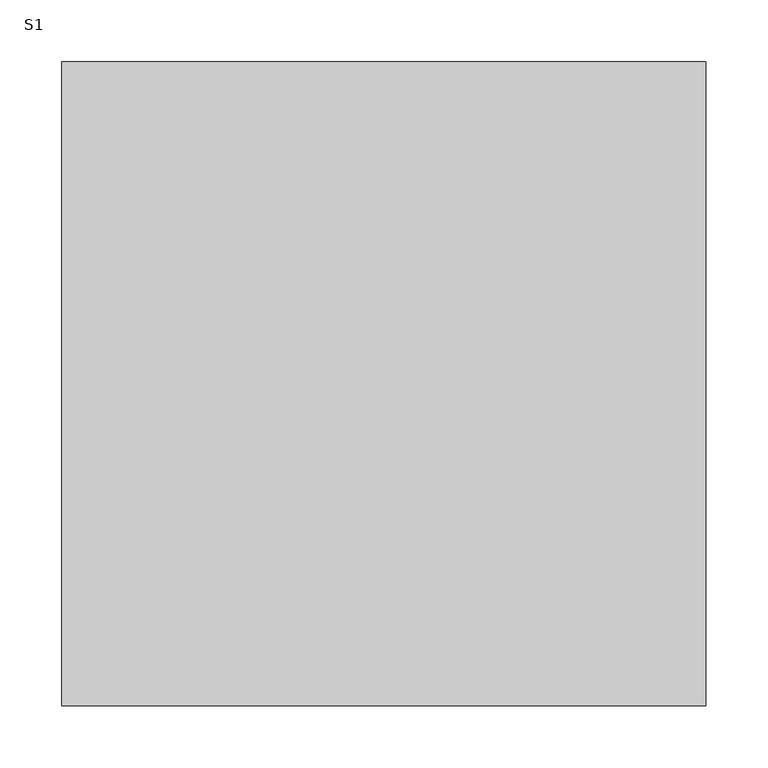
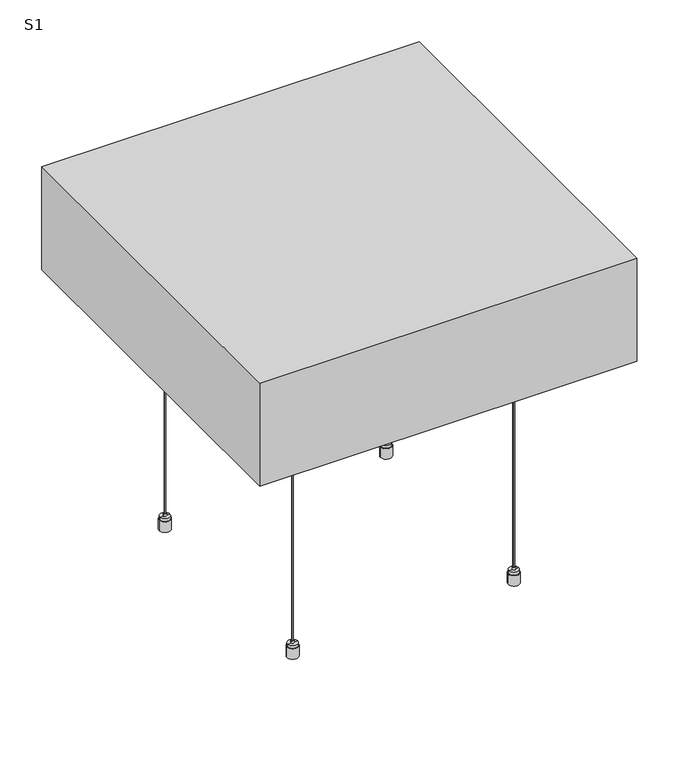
"""IFC4 building model written with IfcOpenShell, lengths in millimetres: proxy geometry, OWA Corpus : S1."""

from ifc_helpers import new_model, si_unit, point, frame, frame_2d, origin, place, context, project, spatial, polyline, circle_curve, trimmed, segment, composite_curve, outline, extrude, faceted_brep, source, transform, mapped, element, save
from ifc_brep_helpers import plane_surface, cylinder_surface, revolved_surface, advanced_brep


def s1_047c2050(model_context):
    return source(origin(), model_context, "Body", "SolidModel", [
        advanced_brep(
        [(-281.0, -152.5, 0.0), (-273.2593825, -152.5, 0.0), (-288.7406175, -152.5, 0.0), (-273.2593825, -152.5, 15.0), (-288.7406175, -152.5, 15.0), (-274.1843825, -152.5, 15.0), (-287.8156175, -152.5, 15.0), (-274.1843825, -152.5, 19.0), (-287.8156175, -152.5, 19.0), (-278.9343825, -152.5, 19.0), (-283.0656175, -152.5, 19.0), (-278.9343825, -152.5, 22.546183), (-283.0656175, -152.5, 22.546183), (-281.0, -152.5, 22.546183)],
        [
            (0, 1),
            (1, 2, circle_curve(frame((-281.0, -152.5, 0.0), z_axis=(0.0, 0.0, -1.0), x_axis=(-1.0, 0.0, 0.0)), 7.7406175)),
            (2, 0),
            (2, 1, circle_curve(frame((-281.0, -152.5, 0.0), z_axis=(0.0, 0.0, -1.0), x_axis=(-1.0, 0.0, 0.0)), 7.7406175)),
            (1, 3),
            (3, 4, circle_curve(frame((-281.0, -152.5, 15.0), z_axis=(0.0, 0.0, -1.0), x_axis=(-1.0, 0.0, 0.0)), 7.7406175)),
            (4, 2),
            (4, 3, circle_curve(frame((-281.0, -152.5, 15.0), z_axis=(0.0, 0.0, -1.0), x_axis=(-1.0, 0.0, 0.0)), 7.7406175)),
            (3, 5),
            (5, 6, circle_curve(frame((-281.0, -152.5, 15.0), z_axis=(0.0, 0.0, -1.0), x_axis=(-1.0, 0.0, 0.0)), 6.8156175)),
            (6, 4),
            (6, 5, circle_curve(frame((-281.0, -152.5, 15.0), z_axis=(0.0, 0.0, -1.0), x_axis=(-1.0, 0.0, 0.0)), 6.8156175)),
            (5, 7),
            (7, 8, circle_curve(frame((-281.0, -152.5, 19.0), z_axis=(0.0, 0.0, -1.0), x_axis=(-1.0, 0.0, 0.0)), 6.8156175)),
            (8, 6),
            (8, 7, circle_curve(frame((-281.0, -152.5, 19.0), z_axis=(0.0, 0.0, -1.0), x_axis=(-1.0, 0.0, 0.0)), 6.8156175)),
            (7, 9),
            (9, 10, circle_curve(frame((-281.0, -152.5, 19.0), z_axis=(0.0, 0.0, -1.0), x_axis=(-1.0, 0.0, 0.0)), 2.0656175)),
            (10, 8),
            (10, 9, circle_curve(frame((-281.0, -152.5, 19.0), z_axis=(0.0, 0.0, -1.0), x_axis=(-1.0, 0.0, 0.0)), 2.0656175)),
            (9, 11),
            (11, 12, circle_curve(frame((-281.0, -152.5, 22.546183), z_axis=(0.0, 0.0, -1.0), x_axis=(-1.0, 0.0, 0.0)), 2.0656175)),
            (12, 10),
            (12, 11, circle_curve(frame((-281.0, -152.5, 22.546183), z_axis=(0.0, 0.0, -1.0), x_axis=(-1.0, 0.0, 0.0)), 2.0656175)),
            (11, 13),
            (13, 12),
        ],
        [
            plane_surface(frame((-281.0, -152.5, 0.0), z_axis=(0.0, 0.0, -1.0), x_axis=(-1.0, 0.0, 0.0))),
            cylinder_surface(frame((-281.0, -152.5, -10.0), z_axis=(0.0, 0.0, -1.0), x_axis=(-1.0, 0.0, 0.0)), 7.7406175),
            plane_surface(frame((-281.0, -152.5, 15.0), z_axis=(0.0, 0.0, 1.0), x_axis=(-1.0, 0.0, 0.0))),
            cylinder_surface(frame((-281.0, -152.5, -10.0), z_axis=(0.0, 0.0, -1.0), x_axis=(-1.0, 0.0, 0.0)), 6.8156175),
            plane_surface(frame((-281.0, -152.5, 19.0), z_axis=(0.0, 0.0, 1.0), x_axis=(-1.0, 0.0, 0.0))),
            cylinder_surface(frame((-281.0, -152.5, -10.0), z_axis=(0.0, 0.0, -1.0), x_axis=(-1.0, 0.0, 0.0)), 2.0656175),
            plane_surface(frame((-281.0, -152.5, 22.546183), z_axis=(0.0, 0.0, 1.0), x_axis=(-1.0, 0.0, 0.0))),
        ],
        [
            (0, [[1, 2, 3]]),
            (0, [[-3, 4, -1]]),
            (1, [[5, 6, 7, -2]]),
            (1, [[-7, 8, -5, -4]]),
            (2, [[9, 10, 11, -6]]),
            (2, [[-11, 12, -9, -8]]),
            (3, [[13, 14, 15, -10]]),
            (3, [[-15, 16, -13, -12]]),
            (4, [[17, 18, 19, -14]]),
            (4, [[-19, 20, -17, -16]]),
            (5, [[21, 22, 23, -18]]),
            (5, [[-23, 24, -21, -20]]),
            (6, [[25, 26, -22]]),
            (6, [[-26, -25, -24]]),
        ],
    ),
        advanced_brep(
        [(-278.7615389, -152.5, 428.8211737), (-278.6339453, -152.5, 432.8711737), (-283.3660547, -152.5, 432.8711737), (-283.2384611, -152.5, 428.8211737), (-276.1339453, -152.5, 432.8711737), (-285.8660547, -152.5, 432.8711737), (-276.1339453, -152.5, 458.1211737), (-285.8660547, -152.5, 458.1211737), (-265.1339453, -152.5, 458.1211737), (-296.8660547, -152.5, 458.1211737), (-265.1339453, -152.5, 460.0), (-296.8660547, -152.5, 460.0), (-281.0, -152.5, 460.0), (-281.0, -152.5, 428.8211737)],
        [
            (0, 1),
            (1, 2, circle_curve(frame((-281.0, -152.5, 432.8711737), z_axis=(0.0, 0.0, -1.0), x_axis=(-1.0, 0.0, 0.0)), 2.3660547)),
            (2, 3),
            (3, 0, circle_curve(frame((-281.0, -152.5, 428.8211737), z_axis=(0.0, 0.0, 1.0), x_axis=(-1.0, 0.0, 0.0)), 2.2384611)),
            (2, 1, circle_curve(frame((-281.0, -152.5, 432.8711737), z_axis=(0.0, 0.0, -1.0), x_axis=(-1.0, 0.0, 0.0)), 2.3660547)),
            (0, 3, circle_curve(frame((-281.0, -152.5, 428.8211737), z_axis=(0.0, 0.0, 1.0), x_axis=(-1.0, 0.0, 0.0)), 2.2384611)),
            (1, 4),
            (4, 5, circle_curve(frame((-281.0, -152.5, 432.8711737), z_axis=(0.0, 0.0, -1.0), x_axis=(-1.0, 0.0, 0.0)), 4.8660547)),
            (5, 2),
            (5, 4, circle_curve(frame((-281.0, -152.5, 432.8711737), z_axis=(0.0, 0.0, -1.0), x_axis=(-1.0, 0.0, 0.0)), 4.8660547)),
            (4, 6),
            (6, 7, circle_curve(frame((-281.0, -152.5, 458.1211737), z_axis=(0.0, 0.0, -1.0), x_axis=(-1.0, 0.0, 0.0)), 4.8660547)),
            (7, 5),
            (7, 6, circle_curve(frame((-281.0, -152.5, 458.1211737), z_axis=(0.0, 0.0, -1.0), x_axis=(-1.0, 0.0, 0.0)), 4.8660547)),
            (6, 8),
            (8, 9, circle_curve(frame((-281.0, -152.5, 458.1211737), z_axis=(0.0, 0.0, -1.0), x_axis=(-1.0, 0.0, 0.0)), 15.8660547)),
            (9, 7),
            (9, 8, circle_curve(frame((-281.0, -152.5, 458.1211737), z_axis=(0.0, 0.0, -1.0), x_axis=(-1.0, 0.0, 0.0)), 15.8660547)),
            (8, 10),
            (10, 11, circle_curve(frame((-281.0, -152.5, 460.0), z_axis=(0.0, 0.0, -1.0), x_axis=(-1.0, 0.0, 0.0)), 15.8660547)),
            (11, 9),
            (11, 10, circle_curve(frame((-281.0, -152.5, 460.0), z_axis=(0.0, 0.0, -1.0), x_axis=(-1.0, 0.0, 0.0)), 15.8660547)),
            (10, 12),
            (12, 11),
            (13, 0),
            (3, 13),
        ],
        [
            revolved_surface(polyline([(-283.3660547, -152.5, 432.8711737), (-283.2384611, -152.5, 428.8211737)]), (-281.0, -152.5, 461.8401096), (0.0, 0.0, -1.0)),
            plane_surface(frame((-281.0, -152.5, 432.8711737), z_axis=(0.0, 0.0, -1.0), x_axis=(-1.0, 0.0, 0.0))),
            cylinder_surface(frame((-281.0, -152.5, 461.8401096), z_axis=(0.0, 0.0, -1.0), x_axis=(-1.0, 0.0, 0.0)), 4.8660547),
            plane_surface(frame((-281.0, -152.5, 458.1211737), z_axis=(0.0, 0.0, -1.0), x_axis=(-1.0, 0.0, 0.0))),
            cylinder_surface(frame((-281.0, -152.5, 461.8401096), z_axis=(0.0, 0.0, -1.0), x_axis=(-1.0, 0.0, 0.0)), 15.8660547),
            plane_surface(frame((-281.0, -152.5, 460.0), z_axis=(0.0, 0.0, 1.0), x_axis=(-1.0, 0.0, 0.0))),
            plane_surface(frame((-281.0, -152.5, 428.8211737), z_axis=(0.0, 0.0, -1.0), x_axis=(-1.0, 0.0, 0.0))),
        ],
        [
            (0, [[1, 2, 3, 4]]),
            (0, [[-3, 5, -1, 6]]),
            (1, [[7, 8, 9, -2]]),
            (1, [[-9, 10, -7, -5]]),
            (2, [[11, 12, 13, -8]]),
            (2, [[-13, 14, -11, -10]]),
            (3, [[15, 16, 17, -12]]),
            (3, [[-17, 18, -15, -14]]),
            (4, [[19, 20, 21, -16]]),
            (4, [[-21, 22, -19, -18]]),
            (5, [[23, 24, -20]]),
            (5, [[-24, -23, -22]]),
            (6, [[25, -4, 26]]),
            (6, [[-26, -6, -25]]),
        ],
    ),
        extrude(outline(composite_curve([segment(trimmed(circle_curve(frame_2d((-281.0, -152.5)), 1.0), [point((-282.0, -152.5))], [point((-280.0, -152.5))], False, "CARTESIAN"), True, "CONTINUOUS"), segment(trimmed(circle_curve(frame_2d((-281.0, -152.5)), 1.0), [point((-280.0, -152.5))], [point((-282.0, -152.5))], False, "CARTESIAN"), True, "CONTINUOUS")], self_intersect=False)), frame((0.0, 0.0, 22.546183), z_axis=(0.0, 0.0, 1.0), x_axis=(1.0, 0.0, 0.0)), (0.0, 0.0, 1.0), 406.2749908),
        advanced_brep(
        [(-281.0, 152.5, 0.0), (-288.7406175, 152.5, 0.0), (-273.2593825, 152.5, 0.0), (-288.7406175, 152.5, 15.0), (-273.2593825, 152.5, 15.0), (-287.8156175, 152.5, 15.0), (-274.1843825, 152.5, 15.0), (-287.8156175, 152.5, 19.0), (-274.1843825, 152.5, 19.0), (-283.0656175, 152.5, 19.0), (-278.9343825, 152.5, 19.0), (-283.0656175, 152.5, 22.546183), (-278.9343825, 152.5, 22.546183), (-281.0, 152.5, 22.546183)],
        [
            (0, 1),
            (1, 2, circle_curve(frame((-281.0, 152.5, 0.0), z_axis=(0.0, 0.0, -1.0), x_axis=(-1.0, 0.0, 0.0)), 7.7406175)),
            (2, 0),
            (2, 1, circle_curve(frame((-281.0, 152.5, 0.0), z_axis=(0.0, 0.0, -1.0), x_axis=(-1.0, 0.0, 0.0)), 7.7406175)),
            (1, 3),
            (3, 4, circle_curve(frame((-281.0, 152.5, 15.0), z_axis=(0.0, 0.0, -1.0), x_axis=(-1.0, 0.0, 0.0)), 7.7406175)),
            (4, 2),
            (4, 3, circle_curve(frame((-281.0, 152.5, 15.0), z_axis=(0.0, 0.0, -1.0), x_axis=(-1.0, 0.0, 0.0)), 7.7406175)),
            (3, 5),
            (5, 6, circle_curve(frame((-281.0, 152.5, 15.0), z_axis=(0.0, 0.0, -1.0), x_axis=(-1.0, 0.0, 0.0)), 6.8156175)),
            (6, 4),
            (6, 5, circle_curve(frame((-281.0, 152.5, 15.0), z_axis=(0.0, 0.0, -1.0), x_axis=(-1.0, 0.0, 0.0)), 6.8156175)),
            (5, 7),
            (7, 8, circle_curve(frame((-281.0, 152.5, 19.0), z_axis=(0.0, 0.0, -1.0), x_axis=(-1.0, 0.0, 0.0)), 6.8156175)),
            (8, 6),
            (8, 7, circle_curve(frame((-281.0, 152.5, 19.0), z_axis=(0.0, 0.0, -1.0), x_axis=(-1.0, 0.0, 0.0)), 6.8156175)),
            (7, 9),
            (9, 10, circle_curve(frame((-281.0, 152.5, 19.0), z_axis=(0.0, 0.0, -1.0), x_axis=(-1.0, 0.0, 0.0)), 2.0656175)),
            (10, 8),
            (10, 9, circle_curve(frame((-281.0, 152.5, 19.0), z_axis=(0.0, 0.0, -1.0), x_axis=(-1.0, 0.0, 0.0)), 2.0656175)),
            (9, 11),
            (11, 12, circle_curve(frame((-281.0, 152.5, 22.546183), z_axis=(0.0, 0.0, -1.0), x_axis=(-1.0, 0.0, 0.0)), 2.0656175)),
            (12, 10),
            (12, 11, circle_curve(frame((-281.0, 152.5, 22.546183), z_axis=(0.0, 0.0, -1.0), x_axis=(-1.0, 0.0, 0.0)), 2.0656175)),
            (11, 13),
            (13, 12),
        ],
        [
            plane_surface(frame((-281.0, 152.5, 0.0), z_axis=(0.0, 0.0, -1.0), x_axis=(-1.0, 0.0, 0.0))),
            cylinder_surface(frame((-281.0, 152.5, -10.0), z_axis=(0.0, 0.0, -1.0), x_axis=(-1.0, 0.0, 0.0)), 7.7406175),
            plane_surface(frame((-281.0, 152.5, 15.0), z_axis=(0.0, 0.0, 1.0), x_axis=(-1.0, 0.0, 0.0))),
            cylinder_surface(frame((-281.0, 152.5, -10.0), z_axis=(0.0, 0.0, -1.0), x_axis=(-1.0, 0.0, 0.0)), 6.8156175),
            plane_surface(frame((-281.0, 152.5, 19.0), z_axis=(0.0, 0.0, 1.0), x_axis=(-1.0, 0.0, 0.0))),
            cylinder_surface(frame((-281.0, 152.5, -10.0), z_axis=(0.0, 0.0, -1.0), x_axis=(-1.0, 0.0, 0.0)), 2.0656175),
            plane_surface(frame((-281.0, 152.5, 22.546183), z_axis=(0.0, 0.0, 1.0), x_axis=(-1.0, 0.0, 0.0))),
        ],
        [
            (0, [[1, 2, 3]]),
            (0, [[-3, 4, -1]]),
            (1, [[-2, 5, 6, 7]]),
            (1, [[-4, -7, 8, -5]]),
            (2, [[-6, 9, 10, 11]]),
            (2, [[-8, -11, 12, -9]]),
            (3, [[-10, 13, 14, 15]]),
            (3, [[-12, -15, 16, -13]]),
            (4, [[-14, 17, 18, 19]]),
            (4, [[-16, -19, 20, -17]]),
            (5, [[-18, 21, 22, 23]]),
            (5, [[-20, -23, 24, -21]]),
            (6, [[-22, 25, 26]]),
            (6, [[-24, -26, -25]]),
        ],
    ),
        advanced_brep(
        [(-278.7615389, 152.5, 428.8211737), (-283.2384611, 152.5, 428.8211737), (-283.3660547, 152.5, 432.8711737), (-278.6339453, 152.5, 432.8711737), (-285.8660547, 152.5, 432.8711737), (-276.1339453, 152.5, 432.8711737), (-285.8660547, 152.5, 458.1211737), (-276.1339453, 152.5, 458.1211737), (-296.8660547, 152.5, 458.1211737), (-265.1339453, 152.5, 458.1211737), (-296.8660547, 152.5, 460.0), (-265.1339453, 152.5, 460.0), (-281.0, 152.5, 460.0), (-281.0, 152.5, 428.8211737)],
        [
            (0, 1, circle_curve(frame((-281.0, 152.5, 428.8211737), z_axis=(0.0, 0.0, 1.0), x_axis=(-1.0, 0.0, 0.0)), 2.2384611)),
            (1, 2),
            (2, 3, circle_curve(frame((-281.0, 152.5, 432.8711737), z_axis=(0.0, 0.0, -1.0), x_axis=(-1.0, 0.0, 0.0)), 2.3660547)),
            (3, 0),
            (1, 0, circle_curve(frame((-281.0, 152.5, 428.8211737), z_axis=(0.0, 0.0, 1.0), x_axis=(-1.0, 0.0, 0.0)), 2.2384611)),
            (3, 2, circle_curve(frame((-281.0, 152.5, 432.8711737), z_axis=(0.0, 0.0, -1.0), x_axis=(-1.0, 0.0, 0.0)), 2.3660547)),
            (2, 4),
            (4, 5, circle_curve(frame((-281.0, 152.5, 432.8711737), z_axis=(0.0, 0.0, -1.0), x_axis=(-1.0, 0.0, 0.0)), 4.8660547)),
            (5, 3),
            (5, 4, circle_curve(frame((-281.0, 152.5, 432.8711737), z_axis=(0.0, 0.0, -1.0), x_axis=(-1.0, 0.0, 0.0)), 4.8660547)),
            (4, 6),
            (6, 7, circle_curve(frame((-281.0, 152.5, 458.1211737), z_axis=(0.0, 0.0, -1.0), x_axis=(-1.0, 0.0, 0.0)), 4.8660547)),
            (7, 5),
            (7, 6, circle_curve(frame((-281.0, 152.5, 458.1211737), z_axis=(0.0, 0.0, -1.0), x_axis=(-1.0, 0.0, 0.0)), 4.8660547)),
            (6, 8),
            (8, 9, circle_curve(frame((-281.0, 152.5, 458.1211737), z_axis=(0.0, 0.0, -1.0), x_axis=(-1.0, 0.0, 0.0)), 15.8660547)),
            (9, 7),
            (9, 8, circle_curve(frame((-281.0, 152.5, 458.1211737), z_axis=(0.0, 0.0, -1.0), x_axis=(-1.0, 0.0, 0.0)), 15.8660547)),
            (8, 10),
            (10, 11, circle_curve(frame((-281.0, 152.5, 460.0), z_axis=(0.0, 0.0, -1.0), x_axis=(-1.0, 0.0, 0.0)), 15.8660547)),
            (11, 9),
            (11, 10, circle_curve(frame((-281.0, 152.5, 460.0), z_axis=(0.0, 0.0, -1.0), x_axis=(-1.0, 0.0, 0.0)), 15.8660547)),
            (10, 12),
            (12, 11),
            (13, 1),
            (0, 13),
        ],
        [
            revolved_surface(polyline([(-283.3660547, 152.5, 432.8711737), (-283.2384611, 152.5, 428.8211737)]), (-281.0, 152.5, 461.8401096), (0.0, 0.0, -1.0)),
            plane_surface(frame((-281.0, 152.5, 432.8711737), z_axis=(0.0, 0.0, -1.0), x_axis=(-1.0, 0.0, 0.0))),
            cylinder_surface(frame((-281.0, 152.5, 461.8401096), z_axis=(0.0, 0.0, -1.0), x_axis=(-1.0, 0.0, 0.0)), 4.8660547),
            plane_surface(frame((-281.0, 152.5, 458.1211737), z_axis=(0.0, 0.0, -1.0), x_axis=(-1.0, 0.0, 0.0))),
            cylinder_surface(frame((-281.0, 152.5, 461.8401096), z_axis=(0.0, 0.0, -1.0), x_axis=(-1.0, 0.0, 0.0)), 15.8660547),
            plane_surface(frame((-281.0, 152.5, 460.0), z_axis=(0.0, 0.0, 1.0), x_axis=(-1.0, 0.0, 0.0))),
            plane_surface(frame((-281.0, 152.5, 428.8211737), z_axis=(0.0, 0.0, -1.0), x_axis=(-1.0, 0.0, 0.0))),
        ],
        [
            (0, [[1, 2, 3, 4]]),
            (0, [[5, -4, 6, -2]]),
            (1, [[-3, 7, 8, 9]]),
            (1, [[-6, -9, 10, -7]]),
            (2, [[-8, 11, 12, 13]]),
            (2, [[-10, -13, 14, -11]]),
            (3, [[-12, 15, 16, 17]]),
            (3, [[-14, -17, 18, -15]]),
            (4, [[-16, 19, 20, 21]]),
            (4, [[-18, -21, 22, -19]]),
            (5, [[-20, 23, 24]]),
            (5, [[-22, -24, -23]]),
            (6, [[25, -1, 26]]),
            (6, [[-26, -5, -25]]),
        ],
    ),
        extrude(outline(composite_curve([segment(trimmed(circle_curve(frame_2d((-281.0, 152.5)), 1.0), [point((-282.0, 152.5))], [point((-280.0, 152.5))], False, "CARTESIAN"), True, "CONTINUOUS"), segment(trimmed(circle_curve(frame_2d((-281.0, 152.5)), 1.0), [point((-280.0, 152.5))], [point((-282.0, 152.5))], False, "CARTESIAN"), True, "CONTINUOUS")], self_intersect=False)), frame((0.0, 0.0, 22.546183), z_axis=(0.0, 0.0, 1.0), x_axis=(1.0, 0.0, 0.0)), (0.0, 0.0, 1.0), 406.2749908),
        advanced_brep(
        [(-586.0, -152.5, 0.0), (-578.2593825, -152.5, 0.0), (-593.7406175, -152.5, 0.0), (-578.2593825, -152.5, 15.0), (-593.7406175, -152.5, 15.0), (-579.1843825, -152.5, 15.0), (-592.8156175, -152.5, 15.0), (-579.1843825, -152.5, 19.0), (-592.8156175, -152.5, 19.0), (-583.9343825, -152.5, 19.0), (-588.0656175, -152.5, 19.0), (-583.9343825, -152.5, 22.546183), (-588.0656175, -152.5, 22.546183), (-586.0, -152.5, 22.546183)],
        [
            (0, 1),
            (1, 2, circle_curve(frame((-586.0, -152.5, 0.0), z_axis=(0.0, 0.0, -1.0), x_axis=(-1.0, 0.0, 0.0)), 7.7406175)),
            (2, 0),
            (2, 1, circle_curve(frame((-586.0, -152.5, 0.0), z_axis=(0.0, 0.0, -1.0), x_axis=(-1.0, 0.0, 0.0)), 7.7406175)),
            (1, 3),
            (3, 4, circle_curve(frame((-586.0, -152.5, 15.0), z_axis=(0.0, 0.0, -1.0), x_axis=(-1.0, 0.0, 0.0)), 7.7406175)),
            (4, 2),
            (4, 3, circle_curve(frame((-586.0, -152.5, 15.0), z_axis=(0.0, 0.0, -1.0), x_axis=(-1.0, 0.0, 0.0)), 7.7406175)),
            (3, 5),
            (5, 6, circle_curve(frame((-586.0, -152.5, 15.0), z_axis=(0.0, 0.0, -1.0), x_axis=(-1.0, 0.0, 0.0)), 6.8156175)),
            (6, 4),
            (6, 5, circle_curve(frame((-586.0, -152.5, 15.0), z_axis=(0.0, 0.0, -1.0), x_axis=(-1.0, 0.0, 0.0)), 6.8156175)),
            (5, 7),
            (7, 8, circle_curve(frame((-586.0, -152.5, 19.0), z_axis=(0.0, 0.0, -1.0), x_axis=(-1.0, 0.0, 0.0)), 6.8156175)),
            (8, 6),
            (8, 7, circle_curve(frame((-586.0, -152.5, 19.0), z_axis=(0.0, 0.0, -1.0), x_axis=(-1.0, 0.0, 0.0)), 6.8156175)),
            (7, 9),
            (9, 10, circle_curve(frame((-586.0, -152.5, 19.0), z_axis=(0.0, 0.0, -1.0), x_axis=(-1.0, 0.0, 0.0)), 2.0656175)),
            (10, 8),
            (10, 9, circle_curve(frame((-586.0, -152.5, 19.0), z_axis=(0.0, 0.0, -1.0), x_axis=(-1.0, 0.0, 0.0)), 2.0656175)),
            (9, 11),
            (11, 12, circle_curve(frame((-586.0, -152.5, 22.546183), z_axis=(0.0, 0.0, -1.0), x_axis=(-1.0, 0.0, 0.0)), 2.0656175)),
            (12, 10),
            (12, 11, circle_curve(frame((-586.0, -152.5, 22.546183), z_axis=(0.0, 0.0, -1.0), x_axis=(-1.0, 0.0, 0.0)), 2.0656175)),
            (11, 13),
            (13, 12),
        ],
        [
            plane_surface(frame((-586.0, -152.5, 0.0), z_axis=(0.0, 0.0, -1.0), x_axis=(-1.0, 0.0, 0.0))),
            cylinder_surface(frame((-586.0, -152.5, -10.0), z_axis=(0.0, 0.0, -1.0), x_axis=(-1.0, 0.0, 0.0)), 7.7406175),
            plane_surface(frame((-586.0, -152.5, 15.0), z_axis=(0.0, 0.0, 1.0), x_axis=(-1.0, 0.0, 0.0))),
            cylinder_surface(frame((-586.0, -152.5, -10.0), z_axis=(0.0, 0.0, -1.0), x_axis=(-1.0, 0.0, 0.0)), 6.8156175),
            plane_surface(frame((-586.0, -152.5, 19.0), z_axis=(0.0, 0.0, 1.0), x_axis=(-1.0, 0.0, 0.0))),
            cylinder_surface(frame((-586.0, -152.5, -10.0), z_axis=(0.0, 0.0, -1.0), x_axis=(-1.0, 0.0, 0.0)), 2.0656175),
            plane_surface(frame((-586.0, -152.5, 22.546183), z_axis=(0.0, 0.0, 1.0), x_axis=(-1.0, 0.0, 0.0))),
        ],
        [
            (0, [[1, 2, 3]]),
            (0, [[-3, 4, -1]]),
            (1, [[5, 6, 7, -2]]),
            (1, [[-7, 8, -5, -4]]),
            (2, [[9, 10, 11, -6]]),
            (2, [[-11, 12, -9, -8]]),
            (3, [[13, 14, 15, -10]]),
            (3, [[-15, 16, -13, -12]]),
            (4, [[17, 18, 19, -14]]),
            (4, [[-19, 20, -17, -16]]),
            (5, [[21, 22, 23, -18]]),
            (5, [[-23, 24, -21, -20]]),
            (6, [[25, 26, -22]]),
            (6, [[-26, -25, -24]]),
        ],
    ),
        advanced_brep(
        [(-583.7615389, -152.5, 428.8211737), (-583.6339453, -152.5, 432.8711737), (-588.3660547, -152.5, 432.8711737), (-588.2384611, -152.5, 428.8211737), (-581.1339453, -152.5, 432.8711737), (-590.8660547, -152.5, 432.8711737), (-581.1339453, -152.5, 458.1211737), (-590.8660547, -152.5, 458.1211737), (-570.1339453, -152.5, 458.1211737), (-601.8660547, -152.5, 458.1211737), (-570.1339453, -152.5, 460.0), (-601.8660547, -152.5, 460.0), (-586.0, -152.5, 460.0), (-586.0, -152.5, 428.8211737)],
        [
            (0, 1),
            (1, 2, circle_curve(frame((-586.0, -152.5, 432.8711737), z_axis=(0.0, 0.0, -1.0), x_axis=(-1.0, 0.0, 0.0)), 2.3660547)),
            (2, 3),
            (3, 0, circle_curve(frame((-586.0, -152.5, 428.8211737), z_axis=(0.0, 0.0, 1.0), x_axis=(-1.0, 0.0, 0.0)), 2.2384611)),
            (2, 1, circle_curve(frame((-586.0, -152.5, 432.8711737), z_axis=(0.0, 0.0, -1.0), x_axis=(-1.0, 0.0, 0.0)), 2.3660547)),
            (0, 3, circle_curve(frame((-586.0, -152.5, 428.8211737), z_axis=(0.0, 0.0, 1.0), x_axis=(-1.0, 0.0, 0.0)), 2.2384611)),
            (1, 4),
            (4, 5, circle_curve(frame((-586.0, -152.5, 432.8711737), z_axis=(0.0, 0.0, -1.0), x_axis=(-1.0, 0.0, 0.0)), 4.8660547)),
            (5, 2),
            (5, 4, circle_curve(frame((-586.0, -152.5, 432.8711737), z_axis=(0.0, 0.0, -1.0), x_axis=(-1.0, 0.0, 0.0)), 4.8660547)),
            (4, 6),
            (6, 7, circle_curve(frame((-586.0, -152.5, 458.1211737), z_axis=(0.0, 0.0, -1.0), x_axis=(-1.0, 0.0, 0.0)), 4.8660547)),
            (7, 5),
            (7, 6, circle_curve(frame((-586.0, -152.5, 458.1211737), z_axis=(0.0, 0.0, -1.0), x_axis=(-1.0, 0.0, 0.0)), 4.8660547)),
            (6, 8),
            (8, 9, circle_curve(frame((-586.0, -152.5, 458.1211737), z_axis=(0.0, 0.0, -1.0), x_axis=(-1.0, 0.0, 0.0)), 15.8660547)),
            (9, 7),
            (9, 8, circle_curve(frame((-586.0, -152.5, 458.1211737), z_axis=(0.0, 0.0, -1.0), x_axis=(-1.0, 0.0, 0.0)), 15.8660547)),
            (8, 10),
            (10, 11, circle_curve(frame((-586.0, -152.5, 460.0), z_axis=(0.0, 0.0, -1.0), x_axis=(-1.0, 0.0, 0.0)), 15.8660547)),
            (11, 9),
            (11, 10, circle_curve(frame((-586.0, -152.5, 460.0), z_axis=(0.0, 0.0, -1.0), x_axis=(-1.0, 0.0, 0.0)), 15.8660547)),
            (10, 12),
            (12, 11),
            (13, 0),
            (3, 13),
        ],
        [
            revolved_surface(polyline([(-588.3660547, -152.5, 432.8711737), (-588.2384611, -152.5, 428.8211737)]), (-586.0, -152.5, 461.8401096), (0.0, 0.0, -1.0)),
            plane_surface(frame((-586.0, -152.5, 432.8711737), z_axis=(0.0, 0.0, -1.0), x_axis=(-1.0, 0.0, 0.0))),
            cylinder_surface(frame((-586.0, -152.5, 461.8401096), z_axis=(0.0, 0.0, -1.0), x_axis=(-1.0, 0.0, 0.0)), 4.8660547),
            plane_surface(frame((-586.0, -152.5, 458.1211737), z_axis=(0.0, 0.0, -1.0), x_axis=(-1.0, 0.0, 0.0))),
            cylinder_surface(frame((-586.0, -152.5, 461.8401096), z_axis=(0.0, 0.0, -1.0), x_axis=(-1.0, 0.0, 0.0)), 15.8660547),
            plane_surface(frame((-586.0, -152.5, 460.0), z_axis=(0.0, 0.0, 1.0), x_axis=(-1.0, 0.0, 0.0))),
            plane_surface(frame((-586.0, -152.5, 428.8211737), z_axis=(0.0, 0.0, -1.0), x_axis=(-1.0, 0.0, 0.0))),
        ],
        [
            (0, [[1, 2, 3, 4]]),
            (0, [[-3, 5, -1, 6]]),
            (1, [[7, 8, 9, -2]]),
            (1, [[-9, 10, -7, -5]]),
            (2, [[11, 12, 13, -8]]),
            (2, [[-13, 14, -11, -10]]),
            (3, [[15, 16, 17, -12]]),
            (3, [[-17, 18, -15, -14]]),
            (4, [[19, 20, 21, -16]]),
            (4, [[-21, 22, -19, -18]]),
            (5, [[23, 24, -20]]),
            (5, [[-24, -23, -22]]),
            (6, [[25, -4, 26]]),
            (6, [[-26, -6, -25]]),
        ],
    ),
        extrude(outline(composite_curve([segment(trimmed(circle_curve(frame_2d((-586.0, -152.5)), 1.0), [point((-587.0, -152.5))], [point((-585.0, -152.5))], False, "CARTESIAN"), True, "CONTINUOUS"), segment(trimmed(circle_curve(frame_2d((-586.0, -152.5)), 1.0), [point((-585.0, -152.5))], [point((-587.0, -152.5))], False, "CARTESIAN"), True, "CONTINUOUS")], self_intersect=False)), frame((0.0, 0.0, 22.546183), z_axis=(0.0, 0.0, 1.0), x_axis=(1.0, 0.0, 0.0)), (0.0, 0.0, 1.0), 406.2749908),
        advanced_brep(
        [(-586.0, 152.5, 0.0), (-593.7406175, 152.5, 0.0), (-578.2593825, 152.5, 0.0), (-593.7406175, 152.5, 15.0), (-578.2593825, 152.5, 15.0), (-592.8156175, 152.5, 15.0), (-579.1843825, 152.5, 15.0), (-592.8156175, 152.5, 19.0), (-579.1843825, 152.5, 19.0), (-588.0656175, 152.5, 19.0), (-583.9343825, 152.5, 19.0), (-588.0656175, 152.5, 22.546183), (-583.9343825, 152.5, 22.546183), (-586.0, 152.5, 22.546183)],
        [
            (0, 1),
            (1, 2, circle_curve(frame((-586.0, 152.5, 0.0), z_axis=(0.0, 0.0, -1.0), x_axis=(-1.0, 0.0, 0.0)), 7.7406175)),
            (2, 0),
            (2, 1, circle_curve(frame((-586.0, 152.5, 0.0), z_axis=(0.0, 0.0, -1.0), x_axis=(-1.0, 0.0, 0.0)), 7.7406175)),
            (1, 3),
            (3, 4, circle_curve(frame((-586.0, 152.5, 15.0), z_axis=(0.0, 0.0, -1.0), x_axis=(-1.0, 0.0, 0.0)), 7.7406175)),
            (4, 2),
            (4, 3, circle_curve(frame((-586.0, 152.5, 15.0), z_axis=(0.0, 0.0, -1.0), x_axis=(-1.0, 0.0, 0.0)), 7.7406175)),
            (3, 5),
            (5, 6, circle_curve(frame((-586.0, 152.5, 15.0), z_axis=(0.0, 0.0, -1.0), x_axis=(-1.0, 0.0, 0.0)), 6.8156175)),
            (6, 4),
            (6, 5, circle_curve(frame((-586.0, 152.5, 15.0), z_axis=(0.0, 0.0, -1.0), x_axis=(-1.0, 0.0, 0.0)), 6.8156175)),
            (5, 7),
            (7, 8, circle_curve(frame((-586.0, 152.5, 19.0), z_axis=(0.0, 0.0, -1.0), x_axis=(-1.0, 0.0, 0.0)), 6.8156175)),
            (8, 6),
            (8, 7, circle_curve(frame((-586.0, 152.5, 19.0), z_axis=(0.0, 0.0, -1.0), x_axis=(-1.0, 0.0, 0.0)), 6.8156175)),
            (7, 9),
            (9, 10, circle_curve(frame((-586.0, 152.5, 19.0), z_axis=(0.0, 0.0, -1.0), x_axis=(-1.0, 0.0, 0.0)), 2.0656175)),
            (10, 8),
            (10, 9, circle_curve(frame((-586.0, 152.5, 19.0), z_axis=(0.0, 0.0, -1.0), x_axis=(-1.0, 0.0, 0.0)), 2.0656175)),
            (9, 11),
            (11, 12, circle_curve(frame((-586.0, 152.5, 22.546183), z_axis=(0.0, 0.0, -1.0), x_axis=(-1.0, 0.0, 0.0)), 2.0656175)),
            (12, 10),
            (12, 11, circle_curve(frame((-586.0, 152.5, 22.546183), z_axis=(0.0, 0.0, -1.0), x_axis=(-1.0, 0.0, 0.0)), 2.0656175)),
            (11, 13),
            (13, 12),
        ],
        [
            plane_surface(frame((-586.0, 152.5, 0.0), z_axis=(0.0, 0.0, -1.0), x_axis=(-1.0, 0.0, 0.0))),
            cylinder_surface(frame((-586.0, 152.5, -10.0), z_axis=(0.0, 0.0, -1.0), x_axis=(-1.0, 0.0, 0.0)), 7.7406175),
            plane_surface(frame((-586.0, 152.5, 15.0), z_axis=(0.0, 0.0, 1.0), x_axis=(-1.0, 0.0, 0.0))),
            cylinder_surface(frame((-586.0, 152.5, -10.0), z_axis=(0.0, 0.0, -1.0), x_axis=(-1.0, 0.0, 0.0)), 6.8156175),
            plane_surface(frame((-586.0, 152.5, 19.0), z_axis=(0.0, 0.0, 1.0), x_axis=(-1.0, 0.0, 0.0))),
            cylinder_surface(frame((-586.0, 152.5, -10.0), z_axis=(0.0, 0.0, -1.0), x_axis=(-1.0, 0.0, 0.0)), 2.0656175),
            plane_surface(frame((-586.0, 152.5, 22.546183), z_axis=(0.0, 0.0, 1.0), x_axis=(-1.0, 0.0, 0.0))),
        ],
        [
            (0, [[1, 2, 3]]),
            (0, [[-3, 4, -1]]),
            (1, [[-2, 5, 6, 7]]),
            (1, [[-4, -7, 8, -5]]),
            (2, [[-6, 9, 10, 11]]),
            (2, [[-8, -11, 12, -9]]),
            (3, [[-10, 13, 14, 15]]),
            (3, [[-12, -15, 16, -13]]),
            (4, [[-14, 17, 18, 19]]),
            (4, [[-16, -19, 20, -17]]),
            (5, [[-18, 21, 22, 23]]),
            (5, [[-20, -23, 24, -21]]),
            (6, [[-22, 25, 26]]),
            (6, [[-24, -26, -25]]),
        ],
    ),
        advanced_brep(
        [(-583.7615389, 152.5, 428.8211737), (-588.2384611, 152.5, 428.8211737), (-588.3660547, 152.5, 432.8711737), (-583.6339453, 152.5, 432.8711737), (-590.8660547, 152.5, 432.8711737), (-581.1339453, 152.5, 432.8711737), (-590.8660547, 152.5, 458.1211737), (-581.1339453, 152.5, 458.1211737), (-601.8660547, 152.5, 458.1211737), (-570.1339453, 152.5, 458.1211737), (-601.8660547, 152.5, 460.0), (-570.1339453, 152.5, 460.0), (-586.0, 152.5, 460.0), (-586.0, 152.5, 428.8211737)],
        [
            (0, 1, circle_curve(frame((-586.0, 152.5, 428.8211737), z_axis=(0.0, 0.0, 1.0), x_axis=(-1.0, 0.0, 0.0)), 2.2384611)),
            (1, 2),
            (2, 3, circle_curve(frame((-586.0, 152.5, 432.8711737), z_axis=(0.0, 0.0, -1.0), x_axis=(-1.0, 0.0, 0.0)), 2.3660547)),
            (3, 0),
            (1, 0, circle_curve(frame((-586.0, 152.5, 428.8211737), z_axis=(0.0, 0.0, 1.0), x_axis=(-1.0, 0.0, 0.0)), 2.2384611)),
            (3, 2, circle_curve(frame((-586.0, 152.5, 432.8711737), z_axis=(0.0, 0.0, -1.0), x_axis=(-1.0, 0.0, 0.0)), 2.3660547)),
            (2, 4),
            (4, 5, circle_curve(frame((-586.0, 152.5, 432.8711737), z_axis=(0.0, 0.0, -1.0), x_axis=(-1.0, 0.0, 0.0)), 4.8660547)),
            (5, 3),
            (5, 4, circle_curve(frame((-586.0, 152.5, 432.8711737), z_axis=(0.0, 0.0, -1.0), x_axis=(-1.0, 0.0, 0.0)), 4.8660547)),
            (4, 6),
            (6, 7, circle_curve(frame((-586.0, 152.5, 458.1211737), z_axis=(0.0, 0.0, -1.0), x_axis=(-1.0, 0.0, 0.0)), 4.8660547)),
            (7, 5),
            (7, 6, circle_curve(frame((-586.0, 152.5, 458.1211737), z_axis=(0.0, 0.0, -1.0), x_axis=(-1.0, 0.0, 0.0)), 4.8660547)),
            (6, 8),
            (8, 9, circle_curve(frame((-586.0, 152.5, 458.1211737), z_axis=(0.0, 0.0, -1.0), x_axis=(-1.0, 0.0, 0.0)), 15.8660547)),
            (9, 7),
            (9, 8, circle_curve(frame((-586.0, 152.5, 458.1211737), z_axis=(0.0, 0.0, -1.0), x_axis=(-1.0, 0.0, 0.0)), 15.8660547)),
            (8, 10),
            (10, 11, circle_curve(frame((-586.0, 152.5, 460.0), z_axis=(0.0, 0.0, -1.0), x_axis=(-1.0, 0.0, 0.0)), 15.8660547)),
            (11, 9),
            (11, 10, circle_curve(frame((-586.0, 152.5, 460.0), z_axis=(0.0, 0.0, -1.0), x_axis=(-1.0, 0.0, 0.0)), 15.8660547)),
            (10, 12),
            (12, 11),
            (13, 1),
            (0, 13),
        ],
        [
            revolved_surface(polyline([(-588.3660547, 152.5, 432.8711737), (-588.2384611, 152.5, 428.8211737)]), (-586.0, 152.5, 461.8401096), (0.0, 0.0, -1.0)),
            plane_surface(frame((-586.0, 152.5, 432.8711737), z_axis=(0.0, 0.0, -1.0), x_axis=(-1.0, 0.0, 0.0))),
            cylinder_surface(frame((-586.0, 152.5, 461.8401096), z_axis=(0.0, 0.0, -1.0), x_axis=(-1.0, 0.0, 0.0)), 4.8660547),
            plane_surface(frame((-586.0, 152.5, 458.1211737), z_axis=(0.0, 0.0, -1.0), x_axis=(-1.0, 0.0, 0.0))),
            cylinder_surface(frame((-586.0, 152.5, 461.8401096), z_axis=(0.0, 0.0, -1.0), x_axis=(-1.0, 0.0, 0.0)), 15.8660547),
            plane_surface(frame((-586.0, 152.5, 460.0), z_axis=(0.0, 0.0, 1.0), x_axis=(-1.0, 0.0, 0.0))),
            plane_surface(frame((-586.0, 152.5, 428.8211737), z_axis=(0.0, 0.0, -1.0), x_axis=(-1.0, 0.0, 0.0))),
        ],
        [
            (0, [[1, 2, 3, 4]]),
            (0, [[5, -4, 6, -2]]),
            (1, [[-3, 7, 8, 9]]),
            (1, [[-6, -9, 10, -7]]),
            (2, [[-8, 11, 12, 13]]),
            (2, [[-10, -13, 14, -11]]),
            (3, [[-12, 15, 16, 17]]),
            (3, [[-14, -17, 18, -15]]),
            (4, [[-16, 19, 20, 21]]),
            (4, [[-18, -21, 22, -19]]),
            (5, [[-20, 23, 24]]),
            (5, [[-22, -24, -23]]),
            (6, [[25, -1, 26]]),
            (6, [[-26, -5, -25]]),
        ],
    ),
        extrude(outline(composite_curve([segment(trimmed(circle_curve(frame_2d((-586.0, 152.5)), 1.0), [point((-587.0, 152.5))], [point((-585.0, 152.5))], False, "CARTESIAN"), True, "CONTINUOUS"), segment(trimmed(circle_curve(frame_2d((-586.0, 152.5)), 1.0), [point((-585.0, 152.5))], [point((-587.0, 152.5))], False, "CARTESIAN"), True, "CONTINUOUS")], self_intersect=False)), frame((0.0, 0.0, 22.546183), z_axis=(0.0, 0.0, 1.0), x_axis=(1.0, 0.0, 0.0)), (0.0, 0.0, 1.0), 406.2749908),
        faceted_brep([(-173.5, 260.0, 500.0), (-693.5, 260.0, 500.0), (-693.5, -260.0, 500.0), (-173.5, -260.0, 500.0), (-213.5, 220.0, 460.0), (-213.5, -220.0, 460.0), (-653.5, -220.0, 460.0), (-653.5, 220.0, 460.0), (-173.5, 260.0, 350.0), (-693.5, 260.0, 350.0), (-693.5, -260.0, 350.0), (-173.5, -260.0, 350.0), (-213.5, 220.0, 350.0), (-653.5, 220.0, 350.0), (-653.5, -220.0, 350.0), (-213.5, -220.0, 350.0)], [[[0, 1, 2, 3]], [[4, 5, 6, 7]], [[1, 0, 8, 9]], [[2, 1, 9, 10]], [[3, 2, 10, 11]], [[8, 0, 3, 11]], [[8, 11, 10, 9], [12, 13, 14, 15]], [[12, 15, 5, 4]], [[15, 14, 6, 5]], [[14, 13, 7, 6]], [[13, 12, 4, 7]]]),
    ])


if __name__ == "__main__":
    model = new_model("IFC4")
    model_context = context("Model", 3, world=origin())
    ifc_project = project(units=[si_unit("LENGTHUNIT", "METRE", prefix="MILLI")], contexts=[model_context])
    site = spatial("IfcSite", under=ifc_project)
    building = spatial("IfcBuilding", under=site)
    placement = place(None, origin())
    s1_shape = s1_047c2050(model_context)
    element("IfcBuildingElementProxy", 1, Name="OWA Corpus : S1", ObjectType="OWA Corpus : S1", at=placement, inside=building, context=model_context, shape_type="MappedRepresentation", body=[
        mapped(s1_shape, transform((0.0, 0.0, 0.0), x_axis=(1.0, 0.0, 0.0), y_axis=(0.0, 1.0, 0.0), z_axis=(0.0, 0.0, 1.0))),
    ])
    save(model, "model.ifc")
